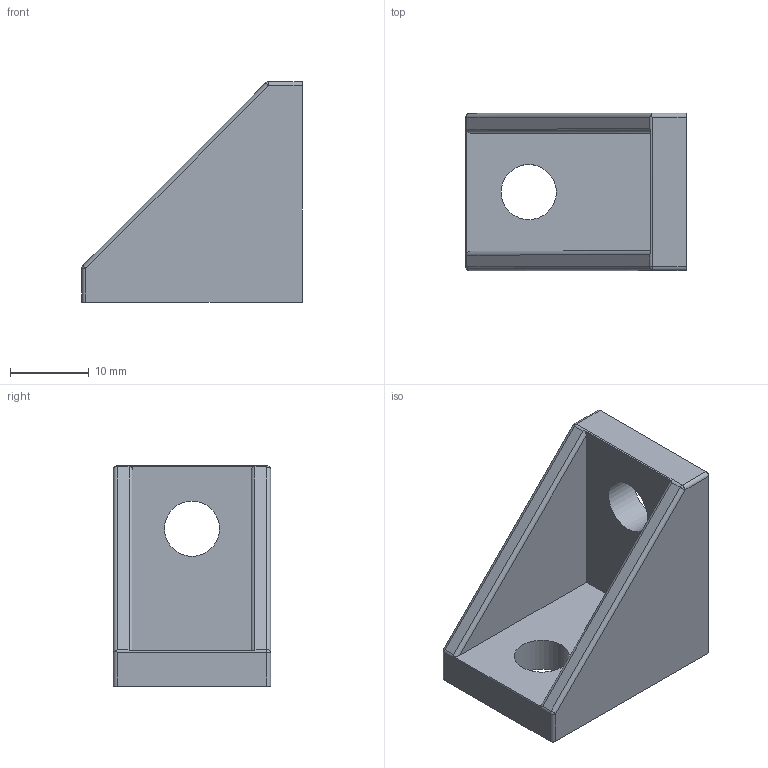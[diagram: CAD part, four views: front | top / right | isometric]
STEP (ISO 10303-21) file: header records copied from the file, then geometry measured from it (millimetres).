
FILE_DESCRIPTION(/* description */ (''),/* implementation_level */ '2;1');
FILE_NAME(/* name */ 'D:\cadd\new~產品型錄\連接件\4系列\AMB-2030.stp',/* time_stamp */ '2016-12-09T16:26:07+08:00',/* author */ ('Owner'),/* organization */ (''),/* preprocessor_version */ 'ST-DEVELOPER v15.2',/* originating_system */ 'Autodesk Inventor 2014',/* authorisation */ '');
FILE_SCHEMA (('AUTOMOTIVE_DESIGN { 1 0 10303 214 3 1 1 }'));
Length unit declared in the file: millimetre
Products named in the file (1): AMB-2030
Bounding box: 28 x 20 x 28 mm (x, y, z)
Volume: 5661.1 mm3; surface area: 3749.3 mm2
Topology: 1 solids, 1 shells, 26 faces, 66 edges, 42 vertices
Faces by surface type: cylinder 12, plane 12, sphere 2
Full cylindrical faces by diameter (mm): 7 x2
Entity records: 809 total; most frequent: DIRECTION 146, CARTESIAN_POINT 133, ORIENTED_EDGE 128, EDGE_CURVE 64, AXIS2_PLACEMENT_3D 55, VERTEX_POINT 42, LINE 36, VECTOR 36
